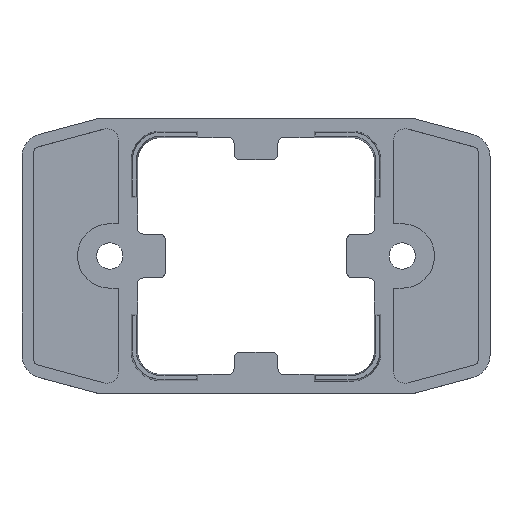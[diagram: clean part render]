
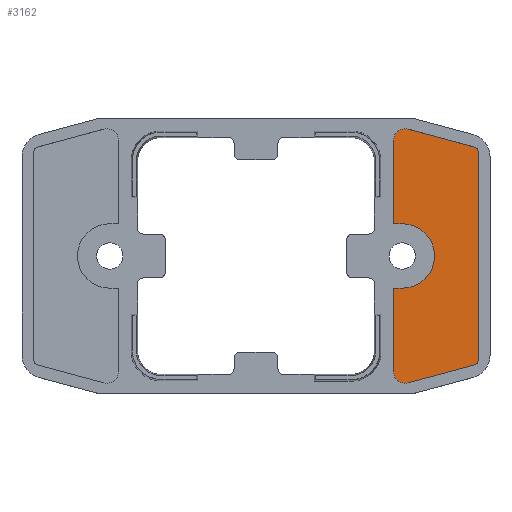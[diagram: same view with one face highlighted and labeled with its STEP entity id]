
A CAD part, top view. The second image highlights one B-rep face of the part: STEP entity #3162.
In plain terms, the highlighted free-form (B-spline) face has degree [1, 1] with [2, 2] control points.
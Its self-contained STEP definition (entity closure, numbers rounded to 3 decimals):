
#2288=CARTESIAN_POINT('',(25.5,-5.5,2.));
#2289=VERTEX_POINT('',#2288);
#2298=CARTESIAN_POINT('',(25.5,5.5,2.));
#2299=VERTEX_POINT('',#2298);
#2300=CARTESIAN_POINT('',(25.5,0.,2.));
#2301=DIRECTION('',(0.0,0.0,-1.0));
#2302=DIRECTION('',(1.0,0.,0.0));
#2303=AXIS2_PLACEMENT_3D('',#2300,#2301,#2302);
#2304=CIRCLE('',#2303,5.5);
#2305=EDGE_CURVE('',#2299,#2289,#2304,.T.);
#2338=CARTESIAN_POINT('',(24.,-5.5,2.));
#2339=VERTEX_POINT('',#2338);
#2346=CARTESIAN_POINT('',(25.5,-5.5,2.));
#2347=DIRECTION('',(-1.0,0.,0.0));
#2348=VECTOR('',#2347,1.5);
#2349=LINE('',#2346,#2348);
#2350=EDGE_CURVE('',#2289,#2339,#2349,.T.);
#2370=CARTESIAN_POINT('',(24.,5.5,2.));
#2371=VERTEX_POINT('',#2370);
#2372=CARTESIAN_POINT('',(24.,5.5,2.));
#2373=DIRECTION('',(1.0,0.,0.0));
#2374=VECTOR('',#2373,1.5);
#2375=LINE('',#2372,#2374);
#2376=EDGE_CURVE('',#2371,#2299,#2375,.T.);
#2989=CARTESIAN_POINT('',(24.,19.744,2.));
#2990=VERTEX_POINT('',#2989);
#2991=CARTESIAN_POINT('',(24.,5.5,2.));
#2992=DIRECTION('',(0.,1.0,0.0));
#2993=VECTOR('',#2992,14.244);
#2994=LINE('',#2991,#2993);
#2995=EDGE_CURVE('',#2371,#2990,#2994,.T.);
#3014=CARTESIAN_POINT('',(24.,-19.744,2.));
#3015=VERTEX_POINT('',#3014);
#3022=CARTESIAN_POINT('',(24.,-19.744,2.));
#3023=DIRECTION('',(0.,1.0,0.0));
#3024=VECTOR('',#3023,14.244);
#3025=LINE('',#3022,#3024);
#3026=EDGE_CURVE('',#3015,#2339,#3025,.T.);
#3036=CARTESIAN_POINT('',(37.759,-18.664,2.));
#3037=VERTEX_POINT('',#3036);
#3038=CARTESIAN_POINT('',(38.5,-17.698,2.));
#3039=VERTEX_POINT('',#3038);
#3040=CARTESIAN_POINT('',(37.5,-17.698,2.));
#3041=DIRECTION('',(0.0,0.0,1.0));
#3042=DIRECTION('',(0.793,-0.609,0.0));
#3043=AXIS2_PLACEMENT_3D('',#3040,#3041,#3042);
#3044=CIRCLE('',#3043,1.0);
#3045=EDGE_CURVE('',#3037,#3039,#3044,.T.);
#3069=CARTESIAN_POINT('',(26.518,-21.676,2.));
#3070=VERTEX_POINT('',#3069);
#3071=CARTESIAN_POINT('',(37.759,-18.664,2.));
#3072=DIRECTION('',(-0.966,-0.259,0.));
#3073=VECTOR('',#3072,11.638);
#3074=LINE('',#3071,#3073);
#3075=EDGE_CURVE('',#3037,#3070,#3074,.T.);
#3092=CARTESIAN_POINT('',(38.5,17.698,2.));
#3093=VERTEX_POINT('',#3092);
#3094=CARTESIAN_POINT('',(37.759,18.664,2.));
#3095=VERTEX_POINT('',#3094);
#3096=CARTESIAN_POINT('',(37.5,17.698,2.));
#3097=DIRECTION('',(0.0,0.0,1.));
#3098=DIRECTION('',(0.793,0.609,0.0));
#3099=AXIS2_PLACEMENT_3D('',#3096,#3097,#3098);
#3100=CIRCLE('',#3099,1.0);
#3101=EDGE_CURVE('',#3093,#3095,#3100,.T.);
#3119=CARTESIAN_POINT('',(38.5,21.744,2.));
#3120=CARTESIAN_POINT('',(24.,21.744,2.));
#3121=CARTESIAN_POINT('',(38.5,-21.744,2.));
#3122=CARTESIAN_POINT('',(24.,-21.744,2.));
#3123=B_SPLINE_SURFACE_WITH_KNOTS('',1,1,((#3119,#3121),(#3120,#3122)),.UNSPECIFIED.,.F.,.F.,.U.,(2,2),(2,2),(0.0,14.5),(0.0,43.488),.UNSPECIFIED.);
#3124=ORIENTED_EDGE('',*,*,#2350,.T.);
#3125=ORIENTED_EDGE('',*,*,#3026,.F.);
#3126=CARTESIAN_POINT('',(26.,-19.744,2.));
#3127=DIRECTION('',(0.0,0.0,-1.0));
#3128=DIRECTION('',(0.259,-0.966,0.0));
#3129=AXIS2_PLACEMENT_3D('',#3126,#3127,#3128);
#3130=CIRCLE('',#3129,2.);
#3131=EDGE_CURVE('',#3070,#3015,#3130,.T.);
#3132=ORIENTED_EDGE('',*,*,#3131,.F.);
#3133=ORIENTED_EDGE('',*,*,#3075,.F.);
#3134=ORIENTED_EDGE('',*,*,#3045,.T.);
#3135=CARTESIAN_POINT('',(38.5,17.698,2.));
#3136=DIRECTION('',(0.,-1.0,0.0));
#3137=VECTOR('',#3136,35.396);
#3138=LINE('',#3135,#3137);
#3139=EDGE_CURVE('',#3093,#3039,#3138,.T.);
#3140=ORIENTED_EDGE('',*,*,#3139,.F.);
#3141=ORIENTED_EDGE('',*,*,#3101,.T.);
#3142=CARTESIAN_POINT('',(26.518,21.676,2.));
#3143=VERTEX_POINT('',#3142);
#3144=CARTESIAN_POINT('',(26.518,21.676,2.));
#3145=DIRECTION('',(0.966,-0.259,0.));
#3146=VECTOR('',#3145,11.638);
#3147=LINE('',#3144,#3146);
#3148=EDGE_CURVE('',#3143,#3095,#3147,.T.);
#3149=ORIENTED_EDGE('',*,*,#3148,.F.);
#3150=CARTESIAN_POINT('',(26.,19.744,2.));
#3151=DIRECTION('',(0.0,0.0,-1.0));
#3152=DIRECTION('',(-1.0,0.,0.0));
#3153=AXIS2_PLACEMENT_3D('',#3150,#3151,#3152);
#3154=CIRCLE('',#3153,2.0);
#3155=EDGE_CURVE('',#2990,#3143,#3154,.T.);
#3156=ORIENTED_EDGE('',*,*,#3155,.F.);
#3157=ORIENTED_EDGE('',*,*,#2995,.F.);
#3158=ORIENTED_EDGE('',*,*,#2376,.T.);
#3159=ORIENTED_EDGE('',*,*,#2305,.T.);
#3160=EDGE_LOOP('',(#3124,#3125,#3132,#3133,#3134,#3140,#3141,#3149,#3156,#3157,#3158,#3159));
#3161=FACE_OUTER_BOUND('',#3160,.T.);
#3162=ADVANCED_FACE('',(#3161),#3123,.T.);
